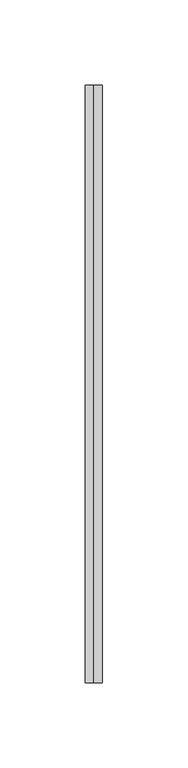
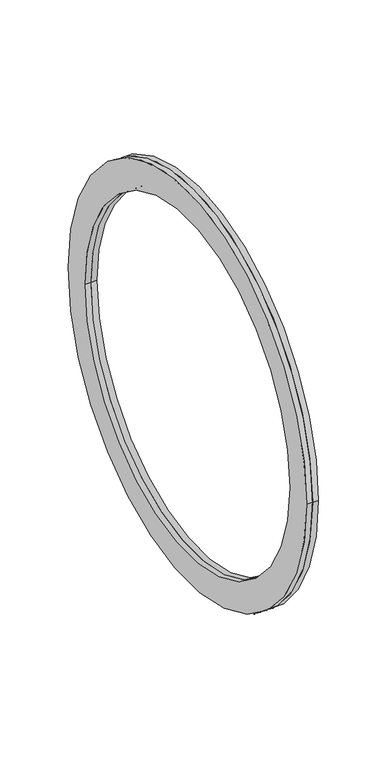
"""IFC4 building model written with IfcOpenShell, lengths in millimetres: duct fitting geometry, BL_ФланецВоздуховдов-Двойной_Круглый_БезКоннекторов : BL_ФланецВоздуховдов-Двойной_Круглый_БезКоннекторов."""

from ifc_helpers import new_model, si_unit, point, frame, frame_2d, origin, place, context, project, spatial, circle_curve, trimmed, segment, composite_curve, outline, extrude, source, transform, mapped, element, save


def duct_fitting_57fa9806(model_context):
    return source(origin(), model_context, "Body", "SweptSolid", [
        extrude(outline(composite_curve([segment(trimmed(circle_curve(frame_2d((45.6742229, 0.0)), 175.0), [point((220.6742229, 0.0))], [point((-129.3257771, 0.0))], False, "CARTESIAN"), True, "CONTINUOUS"), segment(trimmed(circle_curve(frame_2d((45.6742229, 0.0)), 175.0), [point((-129.3257771, 0.0))], [point((220.6742229, 0.0))], False, "CARTESIAN"), True, "CONTINUOUS")], self_intersect=False), holes=[composite_curve([segment(trimmed(circle_curve(frame_2d((45.6742229, 0.0)), 150.0), [point((195.6742229, 0.0))], [point((-104.3257771, 0.0))], True, "CARTESIAN"), True, "CONTINUOUS"), segment(trimmed(circle_curve(frame_2d((45.6742229, 0.0)), 150.0), [point((-104.3257771, 0.0))], [point((195.6742229, 0.0))], True, "CARTESIAN"), True, "CONTINUOUS")], self_intersect=False)]), frame((0.0, 0.0, 0.0), z_axis=(1.0, 0.0, 0.0), x_axis=(0.0, 1.0, 0.0)), (0.0, 0.0, 1.0), 5.0),
        extrude(outline(composite_curve([segment(trimmed(circle_curve(frame_2d((45.6742229, 0.0)), 175.0), [point((220.6742229, 0.0))], [point((-129.3257771, 0.0))], False, "CARTESIAN"), True, "CONTINUOUS"), segment(trimmed(circle_curve(frame_2d((45.6742229, 0.0)), 175.0), [point((-129.3257771, 0.0))], [point((220.6742229, 0.0))], False, "CARTESIAN"), True, "CONTINUOUS")], self_intersect=False), holes=[composite_curve([segment(trimmed(circle_curve(frame_2d((45.6742229, 0.0)), 150.0), [point((195.6742229, 0.0))], [point((-104.3257771, 0.0))], True, "CARTESIAN"), True, "CONTINUOUS"), segment(trimmed(circle_curve(frame_2d((45.6742229, 0.0)), 150.0), [point((-104.3257771, 0.0))], [point((195.6742229, 0.0))], True, "CARTESIAN"), True, "CONTINUOUS")], self_intersect=False)]), frame((-5.0, 0.0, 0.0), z_axis=(1.0, 0.0, 0.0), x_axis=(0.0, 1.0, 0.0)), (0.0, 0.0, 1.0), 5.0),
    ])


if __name__ == "__main__":
    model = new_model("IFC4")
    model_context = context("Model", 3, world=origin())
    ifc_project = project(units=[si_unit("LENGTHUNIT", "METRE", prefix="MILLI")], contexts=[model_context])
    site = spatial("IfcSite", under=ifc_project)
    building = spatial("IfcBuilding", under=site)
    placement = place(None, origin())
    duct_fitting_shape = duct_fitting_57fa9806(model_context)
    element("IfcDuctFitting", 1, ObjectType="BL_ФланецВоздуховдов-Двойной_Круглый_БезКоннекторов : BL_ФланецВоздуховдов-Двойной_Круглый_БезКоннекторов", at=placement, inside=building, context=model_context, shape_type="MappedRepresentation", body=[
        mapped(duct_fitting_shape, transform((0.0, 0.0, 0.0), x_axis=(1.0, 0.0, 0.0), y_axis=(0.0, 1.0, 0.0), z_axis=(0.0, 0.0, 1.0))),
    ])
    save(model, "model.ifc")
